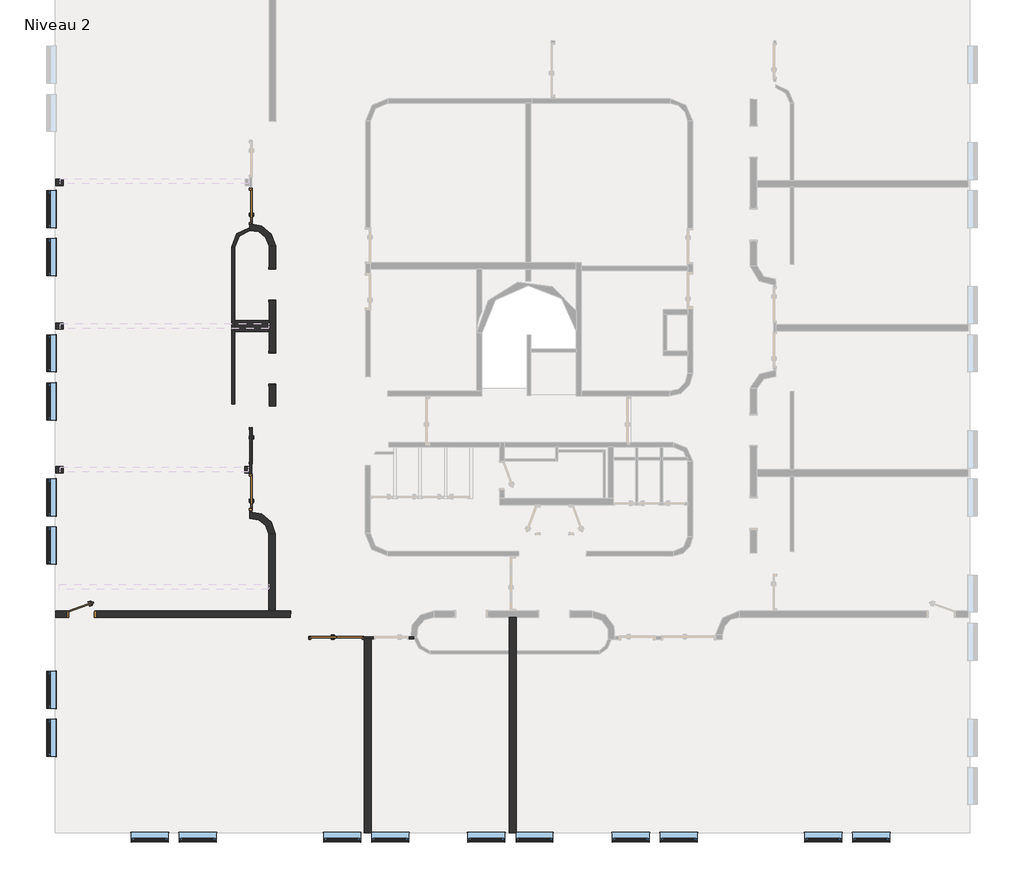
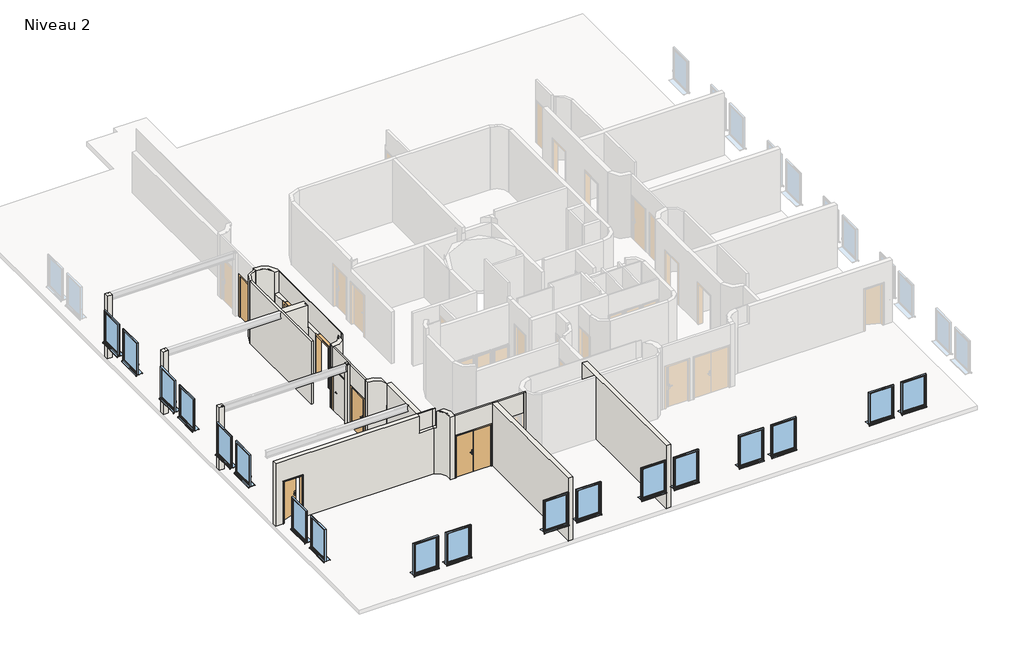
# One storey, part 1 of 5: 18 walls, 18 windows, 7 doors.
"""IFC4 building model written with IfcOpenShell, lengths in millimetres."""

from ifc_helpers import new_model, si_unit, point, frame, frame_2d, origin, place, context, project, spatial, polyline, circle_curve, trimmed, segment, composite_curve, outline, extrude, faceted_brep, transform, mapped, element, save
from ifc_brep_helpers import plane_surface, cylinder_surface, revolved_surface, advanced_brep
from components import door_0ca0b57b, door_1_10m_x_2_04m_5cb44dee, door_1_10m_x_2_04m_12239842, double_r_1_63m_x_2_04m_f0196d8f, ouverture_en_rectangle_ouverture100x200_67694711, window_115_x_155_cm_24c5beae

model = new_model("IFC4")

# Units and contexts
model_context = context("Model", 3, world=origin())
ifc_project = project(units=[si_unit("LENGTHUNIT", "METRE", prefix="MILLI")], contexts=[model_context])

# Site, building, storey
site = spatial("IfcSite", under=ifc_project)
building = spatial("IfcBuilding", under=site)
storey = spatial("IfcBuildingStorey", under=building, Name="Niveau 2", Elevation=7367.3082742)

# Doors
placement = place(None, origin())
door_shape = door_0ca0b57b(model_context)
element("IfcDoor", 1, ObjectType="@_Int. Simple : @_PP (0.83m x 2.04m)", at=placement, inside=storey, context=model_context, shape_type="MappedRepresentation", body=[
    mapped(door_shape, transform((-24826.4891731, -14129.1151398, 7367.3082742), x_axis=(-1.0, 0.0, 0.0), y_axis=(0.0, -1.0, 0.0), z_axis=(0.0, 0.0, 1.0))),
])
door_1_10m_x_2_04m_shape = door_1_10m_x_2_04m_5cb44dee(model_context)
element("IfcDoor", 2, ObjectType="Tierce  160 : 1.10m x 2.04m", at=placement, inside=storey, context=model_context, shape_type="MappedRepresentation", body=[
    mapped(door_1_10m_x_2_04m_shape, transform((-19521.5153149, -10332.0745776, 7367.3082742), x_axis=(3.2540088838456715e-10, -1.0, 0.0), y_axis=(1.0, 3.2540088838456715e-10, 0.0), z_axis=(0.0, 0.0, 1.0))),
])
element("IfcDoor", 3, ObjectType="Tierce  160 : 1.10m x 2.04m", at=placement, inside=storey, context=model_context, shape_type="MappedRepresentation", body=[
    mapped(door_1_10m_x_2_04m_shape, transform((-19521.5153148, -1410.74322, 7367.3082742), x_axis=(3.2540088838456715e-10, -1.0, 0.0), y_axis=(1.0, 3.2540088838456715e-10, 0.0), z_axis=(0.0, 0.0, 1.0))),
])
door_1_10m_x_2_04m_2_shape = door_1_10m_x_2_04m_12239842(model_context)
element("IfcDoor", 4, ObjectType="Tierce  160 : 1.10m x 2.04m", at=placement, inside=storey, context=model_context, shape_type="MappedRepresentation", body=[
    mapped(door_1_10m_x_2_04m_2_shape, transform((-19521.5153154, -8883.2595323, 7367.3082742), x_axis=(-3.2540088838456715e-10, 1.0, 0.0), y_axis=(-1.0, -3.2540088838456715e-10, 0.0), z_axis=(0.0, 0.0, 1.0))),
])
double_r_1_63m_x_2_04m_shape = double_r_1_63m_x_2_04m_f0196d8f(model_context)
element("IfcDoor", 5, ObjectType="Double (R) : 1.63m x 2.04m", at=placement, inside=storey, context=model_context, shape_type="MappedRepresentation", body=[
    mapped(double_r_1_63m_x_2_04m_shape, transform((-16848.9891744, -14870.5536882, 7367.3082742), x_axis=(-1.0, 0.0, 0.0), y_axis=(0.0, -1.0, 0.0), z_axis=(0.0, 0.0, 1.0))),
])
ouverture_en_rectangle_ouverture100x200_shape = ouverture_en_rectangle_ouverture100x200_67694711(model_context)
element("IfcDoor", 6, ObjectType="Ouverture en rectangle : Ouverture100x200", at=placement, inside=storey, context=model_context, shape_type="MappedRepresentation", body=[
    mapped(ouverture_en_rectangle_ouverture100x200_shape, transform((-18843.989171, -6470.3847165, 7367.3082742), x_axis=(0.0, -1.0, 0.0), y_axis=(1.0, 0.0, 0.0), z_axis=(0.0, 0.0, 1.0))),
])
element("IfcDoor", 7, ObjectType="Ouverture en rectangle : Ouverture100x200", at=placement, inside=storey, context=model_context, shape_type="MappedRepresentation", body=[
    mapped(ouverture_en_rectangle_ouverture100x200_shape, transform((-18843.989171, -3852.8185227, 7367.3082742), x_axis=(0.0, -1.0, 0.0), y_axis=(1.0, 0.0, 0.0), z_axis=(0.0, 0.0, 1.0))),
])

# Walls
element("IfcWall", 8, ObjectType="@_Générique - Int. 100 mm", at=placement, inside=storey, context=model_context, shape_type="SweptSolid", body=[
    extrude(outline(polyline([(-20116.9083953, -7573.5894208), (-20116.9083953, -2674.9773292), (-20016.9083953, -2676.6196733), (-20016.9083953, -7575.2317649), (-20116.9083953, -7573.5894208)])), frame((0.0, 0.0, 7367.3082742), z_axis=(0.0, 0.0, 1.0), x_axis=(1.0, 0.0, 0.0)), (0.0, 0.0, 1.0), 3056.0),
])
element("IfcWall", 9, ObjectType="@_Générique - Int. 100 mm", at=placement, inside=storey, context=model_context, shape_type="SweptSolid", body=[
    extrude(outline(composite_curve([segment(polyline([(-20016.9083953, -2676.6196733), (-20116.9083953, -2674.9773292)]), True, "CONTINUOUS"), segment(trimmed(circle_curve(frame_2d((-19487.2206146, -2694.8090938)), 630.0), [point((-20116.9083953, -2674.9773292))], [point((-19556.5153145, -2068.6316073))], False, "CARTESIAN"), True, "CONTINUOUS"), segment(polyline([(-19556.5153145, -2068.6316073), (-19556.5153145, -2169.3585779)]), True, "CONTINUOUS"), segment(trimmed(circle_curve(frame_2d((-19487.2206146, -2694.8090938)), 530.0), [point((-19556.5153145, -2169.3585779))], [point((-20016.9083953, -2676.6196733))], True, "CARTESIAN"), True, "CONTINUOUS")], self_intersect=False)), frame((0.0, 0.0, 7367.3082742), z_axis=(0.0, 0.0, 1.0), x_axis=(1.0, 0.0, 0.0)), (0.0, 0.0, 1.0), 3056.0),
])
element("IfcWall", 10, ObjectType="@_Générique - Int. 70 mm", at=placement, inside=storey, context=model_context, shape_type="AdvancedBrep", body=[
    advanced_brep(
    [(-14439.0437358, -14835.5536882, 10423.3082742), (-14439.0437358, -14835.5536882, 7367.3082742), (-14578.9891744, -14835.5536882, 7367.3082742), (-14578.9891744, -14835.5536882, 9442.3082742), (-15698.9891744, -14835.5536882, 9442.3082742), (-15698.9891744, -14835.5536882, 7367.3082742), (-15998.9891744, -14835.5536882, 7367.3082742), (-15998.9891744, -14835.5536882, 9442.3082742), (-17698.9891744, -14835.5536882, 9442.3082742), (-17698.9891744, -14835.5536882, 7367.3082742), (-17702.5695883, -14835.5536882, 7367.3082742), (-17702.5695883, -14835.5536882, 10423.3082742), (-14439.0437358, -14905.5536882, 7367.3082742), (-14439.0437358, -14905.5536882, 10423.3082742), (-17715.1466322, -14905.5536882, 10423.3082742), (-17715.1466322, -14905.5536882, 7367.3082742), (-17698.9891744, -14905.5536882, 7367.3082742), (-17698.9891744, -14905.5536882, 9442.3082742), (-15998.9891744, -14905.5536882, 9442.3082742), (-15998.9891744, -14905.5536882, 7367.3082742), (-15698.9891744, -14905.5536882, 7367.3082742), (-15698.9891744, -14905.5536882, 9442.3082742), (-14578.9891744, -14905.5536882, 9442.3082742), (-14578.9891744, -14905.5536882, 7367.3082742)],
    [
        (0, 1),
        (1, 2),
        (2, 3),
        (3, 4),
        (4, 5),
        (5, 6),
        (6, 7),
        (7, 8),
        (8, 9),
        (9, 10),
        (10, 11),
        (11, 0),
        (12, 13),
        (13, 14),
        (14, 15),
        (15, 16),
        (16, 17),
        (17, 18),
        (18, 19),
        (19, 20),
        (20, 21),
        (21, 22),
        (22, 23),
        (23, 12),
        (1, 12),
        (23, 2),
        (15, 10, circle_curve(frame((-18426.4999994, -14741.6134946, 7367.3082742), z_axis=(0.0, 0.0, 1.0), x_axis=(1.0, 0.0, 0.0)), 730.0)),
        (9, 16),
        (19, 6),
        (5, 20),
        (0, 13),
        (11, 14, circle_curve(frame((-18426.4999994, -14741.6134946, 10423.3082742), z_axis=(0.0, 0.0, -1.0), x_axis=(1.0, 0.0, 0.0)), 730.0)),
        (8, 17),
        (7, 18),
        (3, 22),
        (21, 4),
    ],
    [
        plane_surface(frame((-12428.2739687, -14835.5536882, 7367.3082742), z_axis=(0.0, 1.0, 0.0), x_axis=(-1.0, 0.0, 0.0))),
        plane_surface(frame((-12428.2739687, -14905.5536882, 7367.3082742), z_axis=(0.0, -1.0, 0.0), x_axis=(1.0, 0.0, 0.0))),
        plane_surface(frame((-14439.0437358, -14835.5536882, 7367.3082742), z_axis=(0.0, 0.0, -1.0), x_axis=(0.0, -1.0, 0.0))),
        plane_surface(frame((-14439.0437358, -14835.5536882, 10423.3082742), z_axis=(1.0, 0.0, 0.0), x_axis=(0.0, -1.0, 0.0))),
        plane_surface(frame((-25603.9891731, 10580.8848592, 10423.3082742), z_axis=(0.0, 0.0, 1.0), x_axis=(0.0, 1.0, 0.0))),
        revolved_surface(polyline([(-17696.4999994, -14741.6134946, 10423.3082742), (-17696.4999994, -14741.6134946, 7367.3082742)]), (-18426.4999994, -14741.6134946, 7367.3082742), (0.0, 0.0, 1.0)),
        plane_surface(frame((-17698.9891744, -13311.5536882, 7367.3082742), z_axis=(1.0, 0.0, 0.0), x_axis=(0.0, -1.0, 0.0))),
        plane_surface(frame((-17698.9891744, -13311.5536882, 9442.3082742), z_axis=(0.0, 0.0, -1.0), x_axis=(0.0, -1.0, 0.0))),
        plane_surface(frame((-15998.9891744, -13311.5536882, 9442.3082742), z_axis=(-1.0, 0.0, 0.0), x_axis=(0.0, -1.0, 0.0))),
        plane_surface(frame((-14578.9891744, -16359.5536882, 9442.3082742), z_axis=(0.0, 0.0, -1.0), x_axis=(0.0, 1.0, 0.0))),
        plane_surface(frame((-15698.9891744, -16359.5536882, 9442.3082742), z_axis=(1.0, 0.0, 0.0), x_axis=(0.0, 1.0, 0.0))),
        plane_surface(frame((-14578.9891744, -16359.5536882, 7367.3082742), z_axis=(-1.0, 0.0, 0.0), x_axis=(0.0, 1.0, 0.0))),
    ],
    [
        (0, [[1, 2, 3, 4, 5, 6, 7, 8, 9, 10, 11, 12]]),
        (1, [[13, 14, 15, 16, 17, 18, 19, 20, 21, 22, 23, 24]]),
        (2, [[25, -24, 26, -2]]),
        (2, [[27, -10, 28, -16]]),
        (2, [[29, -6, 30, -20]]),
        (3, [[-1, 31, -13, -25]]),
        (4, [[-12, 32, -14, -31]]),
        (5, [[-11, -27, -15, -32]]),
        (6, [[33, -17, -28, -9]]),
        (7, [[-33, -8, 34, -18]]),
        (8, [[-34, -7, -29, -19]]),
        (9, [[35, -22, 36, -4]]),
        (10, [[-36, -21, -30, -5]]),
        (11, [[-35, -3, -26, -23]]),
    ],
),
])
element("IfcWall", 11, ObjectType="@_Générique - Int. 70 mm", at=placement, inside=storey, context=model_context, shape_type="AdvancedBrep", body=[
    advanced_brep(
    [(-19486.5153156, -8323.281214, 10423.3082742), (-19486.5153147, -10944.9558374, 10423.3082742), (-19486.5153147, -10944.9558374, 7367.3082742), (-19486.5153148, -10892.0745776, 7367.3082742), (-19486.5153148, -10892.0745776, 9442.3082742), (-19486.5153151, -9772.0745776, 9442.3082742), (-19486.5153151, -9772.0745776, 7367.3082742), (-19486.5153152, -9443.2595323, 7367.3082742), (-19486.5153156, -8323.281214, 7367.3082742), (-19486.5153156, -8323.281214, 9442.3082742), (-19556.5153147, -10948.2518126, 10423.3082742), (-19556.5153156, -8318.5380058, 10423.3082742), (-19556.5153156, -8318.5380058, 7367.3082742), (-19556.5153156, -8323.2595323, 7367.3082742), (-19556.5153152, -9443.2595323, 7367.3082742), (-19556.5153151, -9772.0745776, 7367.3082742), (-19556.5153151, -9772.0745776, 9442.3082742), (-19556.5153148, -10892.0745776, 9442.3082742), (-19556.5153148, -10892.0745776, 7367.3082742), (-19556.5153147, -10948.2518126, 7367.3082742), (-19487.582493, -8323.2595323, 7367.3082742)],
    [
        (0, 1),
        (1, 2),
        (2, 3),
        (3, 4),
        (4, 5),
        (5, 6),
        (6, 7),
        (7, 8),
        (8, 9),
        (9, 0),
        (10, 11),
        (11, 12),
        (12, 13),
        (13, 14),
        (14, 15),
        (15, 16),
        (16, 17),
        (17, 18),
        (18, 19),
        (19, 10),
        (2, 19, circle_curve(frame((-19487.2206146, -11674.9554967, 7367.3082742), z_axis=(0.0, 0.0, 1.0), x_axis=(1.0, -3.743863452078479e-10, 0.0)), 730.0)),
        (18, 3),
        (6, 15),
        (12, 20, circle_curve(frame((-19472.2206146, -7593.4211853, 7367.3082742), z_axis=(0.0, 0.0, 1.0), x_axis=(1.0, 3.743747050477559e-10, 0.0)), 730.0)),
        (20, 8, circle_curve(frame((-19472.2206146, -7593.4211853, 7367.3082742), z_axis=(0.0, 0.0, 1.0), x_axis=(1.0, 3.743747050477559e-10, 0.0)), 730.0)),
        (0, 11, circle_curve(frame((-19472.2206146, -7593.4211853, 10423.3082742), z_axis=(0.0, 0.0, -1.0), x_axis=(1.0, 3.743747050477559e-10, 0.0)), 730.0)),
        (10, 1, circle_curve(frame((-19487.2206146, -11674.9554967, 10423.3082742), z_axis=(0.0, 0.0, -1.0), x_axis=(1.0, -3.743863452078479e-10, 0.0)), 730.0)),
        (17, 4),
        (16, 5),
    ],
    [
        plane_surface(frame((-19486.5153137, -14151.2761968, 7367.3082742), z_axis=(1.0, 3.2540088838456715e-10, 0.0), x_axis=(-3.2540088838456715e-10, 1.0, 0.0))),
        plane_surface(frame((-19556.5153137, -14151.2761968, 7367.3082742), z_axis=(-1.0, -3.2540088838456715e-10, 0.0), x_axis=(3.2540088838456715e-10, -1.0, 0.0))),
        plane_surface(frame((-19486.5153147, -11045.8896229, 7367.3082742), z_axis=(0.0, 0.0, -1.0), x_axis=(-1.0, -3.253861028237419e-10, 0.0))),
        plane_surface(frame((-25603.9891731, 10580.8848592, 10423.3082742), z_axis=(0.0, 0.0, 1.0), x_axis=(0.0, 1.0, 0.0))),
        revolved_surface(polyline([(-18742.2206146, -7593.421185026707, 10423.3082742), (-18742.2206146, -7593.421185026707, 7367.3082742)]), (-19472.2206146, -7593.4211853, 7367.3082742), (0.0, 0.0, 1.0)),
        revolved_surface(polyline([(-18757.2206146, -11674.955496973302, 10423.3082742), (-18757.2206146, -11674.955496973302, 7367.3082742)]), (-19487.2206146, -11674.9554967, 7367.3082742), (0.0, 0.0, 1.0)),
        plane_surface(frame((-21010.5153148, -10892.0745781, 7367.3082742), z_axis=(-3.2540086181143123e-10, 1.0, 0.0), x_axis=(1.0, 3.2540086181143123e-10, 0.0))),
        plane_surface(frame((-21010.5153148, -10892.0745781, 9442.3082742), z_axis=(0.0, 0.0, -1.0), x_axis=(1.0, 3.2540086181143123e-10, 0.0))),
        plane_surface(frame((-21010.5153151, -9772.0745781, 9442.3082742), z_axis=(3.2540086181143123e-10, -1.0, 0.0), x_axis=(1.0, 3.2540086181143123e-10, 0.0))),
    ],
    [
        (0, [[1, 2, 3, 4, 5, 6, 7, 8, 9, 10]]),
        (1, [[11, 12, 13, 14, 15, 16, 17, 18, 19, 20]]),
        (2, [[21, -19, 22, -3]]),
        (2, [[-8, -7, 23, -15, -14, -13, 24, 25]]),
        (3, [[-1, 26, -11, 27]]),
        (4, [[-12, -26, -10, -9, -25, -24]]),
        (5, [[-2, -27, -20, -21]]),
        (6, [[28, -4, -22, -18]]),
        (7, [[-28, -17, 29, -5]]),
        (8, [[-29, -16, -23, -6]]),
    ],
),
])
element("IfcWall", 12, ObjectType="@_Générique - Int. 350 mm", at=placement, inside=storey, context=model_context, shape_type="SweptSolid", body=[
    extrude(outline(polyline([(7367.3082742, -20016.9083953), (7367.3082742, -18943.989171), (9367.3082742, -18943.989171), (9367.3082742, -18958.989172), (10423.3082742, -18958.989172), (10423.3082742, -20016.9083953), (7367.3082742, -20016.9083953)])), frame((0.0, -5320.5835083, 0.0), z_axis=(0.0, 1.0, 0.0), x_axis=(0.0, 0.0, 1.0)), (0.0, 0.0, 1.0), 350.0),
])
element("IfcWall", 13, ObjectType="Ext. Voile BA 200", at=placement, inside=storey, context=model_context, shape_type="Brep", body=[
    faceted_brep([(-25593.9891731, -14229.1151398, 10423.3082742), (-25593.9891731, -14229.1151398, 7367.3082742), (-25241.4891731, -14229.1151398, 7367.3082742), (-25241.4891731, -14229.1151398, 9442.3082742), (-24341.4891731, -14229.1151398, 9442.3082742), (-24341.4891731, -14229.1151398, 7367.3082742), (-18291.4243305, -14229.1151398, 7367.3082742), (-18291.4243305, -14229.1151398, 9592.3082742), (-18958.989172, -14229.1151398, 9592.3082742), (-18958.989172, -14229.1151398, 10423.3082742), (-25593.9891731, -14029.1151398, 7367.3082742), (-25593.9891731, -14029.1151398, 10423.3082742), (-18958.989172, -14029.1151398, 10423.3082742), (-18758.989172, -14029.1151398, 10423.3082742), (-18267.6098033, -14029.1151398, 10423.3082742), (-18267.6098033, -14029.1151398, 7367.3082742), (-18758.989172, -14029.1151398, 7367.3082742), (-18958.989172, -14029.1151398, 7367.3082742), (-24341.4891731, -14029.1151398, 7367.3082742), (-24341.4891731, -14029.1151398, 9442.3082742), (-25241.4891731, -14029.1151398, 9442.3082742), (-25241.4891731, -14029.1151398, 7367.3082742), (-18958.989172, -14069.1151394, 10423.3082742), (-18272.3727087, -14069.1151394, 10423.3082742), (-18958.989172, -14069.1151394, 9592.3082742), (-18272.3727087, -14069.1151394, 9592.3082742)], [[[0, 1, 2, 3, 4, 5, 6, 7, 8, 9]], [[10, 11, 12, 13, 14, 15, 16, 17, 18, 19, 20, 21]], [[1, 10, 21, 2]], [[15, 6, 5, 18, 17, 16]], [[1, 0, 11, 10]], [[14, 13, 12, 11, 0, 9, 22, 23]], [[22, 24, 25, 23]], [[24, 22, 9, 8]], [[25, 24, 8, 7]], [[6, 15, 14, 23, 25, 7]], [[3, 2, 21, 20]], [[4, 3, 20, 19]], [[5, 4, 19, 18]]]),
])
element("IfcWall", 14, ObjectType="Ext. Voile BA 200", at=placement, inside=storey, context=model_context, shape_type="SweptSolid", body=[
    extrude(outline(polyline([(-18958.989172, -14029.1151398), (-18958.989172, -11631.6941624), (-18758.989172, -11624.1719757), (-18758.989172, -14029.1151398), (-18958.989172, -14029.1151398)])), frame((0.0, 0.0, 7367.3082742), z_axis=(0.0, 0.0, 1.0), x_axis=(1.0, 0.0, 0.0)), (0.0, 0.0, 1.0), 3056.0),
])
element("IfcWall", 15, ObjectType="Ext. Voile BA 200", at=placement, inside=storey, context=model_context, shape_type="AdvancedBrep", body=[
    advanced_brep(
    [(-19556.5153157, -8116.6748555, 7367.3082742), (-18943.989171, -7636.6825067, 7367.3082742), (-18743.989171, -7644.2046911, 7367.3082742), (-19486.5153156, -8323.281214, 7367.3082742), (-19487.582493, -8323.2595323, 7367.3082742), (-19556.5153156, -8318.5380058, 7367.3082742), (-19556.5153156, -8219.5986717, 7367.3082742), (-19507.8893067, -8223.0820505, 7367.3082742), (-19504.6085619, -8123.1358814, 7367.3082742), (-19556.5153157, -8118.871701, 7367.3082742), (-19556.5153157, -8116.6748555, 10423.3082742), (-18958.989172, -7725.6841292, 10423.3082742), (-18958.989172, -7725.6841292, 9367.3082742), (-18943.989171, -7636.6825067, 9367.3082742), (-19556.5153156, -8318.5380058, 10423.3082742), (-18743.989171, -7644.2046911, 10423.3082742), (-18758.989172, -7748.9875997, 10423.3082742), (-18758.989172, -7748.9875997, 9367.3082742), (-18958.989172, -8112.5488058, 9367.3082742), (-18958.989172, -8112.5488058, 10423.3082742), (-19556.5153157, -8118.871701, 10423.3082742), (-19556.5153156, -8219.5986717, 10423.3082742), (-19504.6085619, -8123.1358814, 10423.3082742), (-19507.8893067, -8223.0820505, 10423.3082742), (-18758.989172, -7643.6405272, 10423.3082742), (-18758.989172, -7643.6405272, 9367.3082742)],
    [
        (0, 1, circle_curve(frame((-19472.2206146, -7593.4211853, 7367.3082742), z_axis=(0.0, 0.0, 1.0), x_axis=(1.0, 3.743747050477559e-10, 0.0)), 530.0)),
        (1, 2),
        (2, 3, circle_curve(frame((-19472.2206146, -7593.4211853, 7367.3082742), z_axis=(0.0, 0.0, -1.0), x_axis=(1.0, 3.743747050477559e-10, 0.0)), 730.0)),
        (3, 4, circle_curve(frame((-19472.2206146, -7593.4211853, 7367.3082742), z_axis=(0.0, 0.0, -1.0), x_axis=(1.0, 3.743747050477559e-10, 0.0)), 730.0)),
        (4, 5, circle_curve(frame((-19472.2206146, -7593.4211853, 7367.3082742), z_axis=(0.0, 0.0, -1.0), x_axis=(1.0, 3.743747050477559e-10, 0.0)), 730.0)),
        (5, 6),
        (6, 7, circle_curve(frame((-19487.2206146, -7593.4211853, 7367.3082742), z_axis=(0.0, 0.0, 1.0), x_axis=(1.0, -3.743775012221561e-10, 0.0)), 630.0)),
        (7, 8),
        (8, 9, circle_curve(frame((-19487.2206146, -7593.4211853, 7367.3082742), z_axis=(0.0, 0.0, -1.0), x_axis=(1.0, -3.743775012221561e-10, 0.0)), 530.0)),
        (9, 0),
        (0, 10),
        (10, 11, circle_curve(frame((-19472.2206146, -7593.4211853, 10423.3082742), z_axis=(0.0, 0.0, 1.0), x_axis=(1.0, 3.743747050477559e-10, 0.0)), 530.0)),
        (11, 12),
        (12, 13, circle_curve(frame((-19472.2206146, -7593.4211853, 9367.3082742), z_axis=(0.0, 0.0, 1.0), x_axis=(1.0, 3.743747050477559e-10, 0.0)), 530.0)),
        (13, 1),
        (14, 5),
        (2, 15),
        (15, 16, circle_curve(frame((-19472.2206146, -7593.4211853, 10423.3082742), z_axis=(0.0, 0.0, -1.0), x_axis=(1.0, 3.743747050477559e-10, 0.0)), 730.0)),
        (16, 17),
        (17, 18, circle_curve(frame((-19472.2206146, -7593.4211853, 9367.3082742), z_axis=(0.0, 0.0, -1.0), x_axis=(1.0, 3.743747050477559e-10, 0.0)), 730.0)),
        (18, 19),
        (19, 14, circle_curve(frame((-19472.2206146, -7593.4211853, 10423.3082742), z_axis=(0.0, 0.0, -1.0), x_axis=(1.0, 3.743747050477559e-10, 0.0)), 730.0)),
        (9, 20),
        (20, 10),
        (14, 21),
        (21, 6),
        (20, 22, circle_curve(frame((-19487.2206146, -7593.4211853, 10423.3082742), z_axis=(0.0, 0.0, 1.0), x_axis=(1.0, -3.743775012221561e-10, 0.0)), 530.0)),
        (22, 23),
        (23, 21, circle_curve(frame((-19487.2206146, -7593.4211853, 10423.3082742), z_axis=(0.0, 0.0, -1.0), x_axis=(1.0, -3.743775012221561e-10, 0.0)), 630.0)),
        (19, 11),
        (15, 24),
        (24, 16),
        (8, 22),
        (18, 12),
        (17, 25),
        (25, 13),
        (7, 23),
        (24, 25),
    ],
    [
        plane_surface(frame((-18942.2206146, -7593.4211851, 7367.3082742), z_axis=(0.0, 0.0, -1.0), x_axis=(-3.743747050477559e-10, 1.0, 0.0))),
        revolved_surface(polyline([(-18942.2206146, -7593.421185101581, 7367.3082742), (-18942.2206146, -7593.421185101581, 10423.3082742)]), (-19472.2206146, -7593.4211853, 7367.3082742), (0.0, 0.0, -1.0)),
        cylinder_surface(frame((-19472.2206146, -7593.4211853, 7367.3082742), z_axis=(0.0, 0.0, 1.0), x_axis=(1.0, 3.743747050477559e-10, 0.0)), 730.0),
        plane_surface(frame((-19556.5153137, -14151.2761968, 7367.3082742), z_axis=(-1.0, -3.2540088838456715e-10, 0.0), x_axis=(3.2540088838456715e-10, -1.0, 0.0))),
        plane_surface(frame((-25603.9891731, 10580.8848592, 10423.3082742), z_axis=(0.0, 0.0, 1.0), x_axis=(0.0, 1.0, 0.0))),
        cylinder_surface(frame((-19487.2206146, -7593.4211853, 7367.3082742), z_axis=(0.0, 0.0, -1.0), x_axis=(1.0, -3.743775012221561e-10, 0.0)), 530.0),
        plane_surface(frame((-18958.989172, -11917.9123748, 9367.3082742), z_axis=(1.0, 0.0, 0.0), x_axis=(0.0, -1.0, 0.0))),
        plane_surface(frame((-18758.989172, -14169.1151394, 9367.3082742), z_axis=(0.0, 0.0, 1.0), x_axis=(-1.0, 0.0, 0.0))),
        plane_surface(frame((-19507.8893067, -8223.0820505, 10423.3082742), z_axis=(-0.9994616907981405, 0.03280744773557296, 0.0), x_axis=(0.0, 0.0, -1.0))),
        revolved_surface(polyline([(-18857.2206146, -7593.421185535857, 10423.3082742), (-18857.2206146, -7593.421185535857, 7367.3082742)]), (-19487.2206146, -7593.4211853, 7367.3082742), (0.0, 0.0, 1.0)),
        plane_surface(frame((-18758.989172, -11917.9123748, 9367.3082742), z_axis=(-1.0, 0.0, 0.0), x_axis=(0.0, 1.0, 0.0))),
        plane_surface(frame((-18743.989171, -7644.2046911, 7367.3082742), z_axis=(0.03758434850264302, 0.9992934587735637, 0.0), x_axis=(-0.9992934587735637, 0.03758434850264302, 0.0))),
    ],
    [
        (0, [[1, 2, 3, 4, 5, 6, 7, 8, 9, 10]]),
        (1, [[-1, 11, 12, 13, 14, 15]]),
        (2, [[16, -5, -4, -3, 17, 18, 19, 20, 21, 22]]),
        (3, [[-11, -10, 23, 24]]),
        (3, [[-16, 25, 26, -6]]),
        (4, [[-24, 27, 28, 29, -25, -22, 30, -12]]),
        (4, [[-18, 31, 32]]),
        (5, [[-23, -9, 33, -27]]),
        (6, [[34, -13, -30, -21]]),
        (7, [[-34, -20, 35, 36, -14]]),
        (8, [[-33, -8, 37, -28]]),
        (9, [[-37, -7, -26, -29]]),
        (10, [[-35, -19, -32, 38]]),
        (11, [[-17, -2, -15, -36, -38, -31]]),
    ],
),
])
element("IfcWall", 16, ObjectType="Ext. Voile BA 200", at=placement, inside=storey, context=model_context, shape_type="AdvancedBrep", body=[
    advanced_brep(
    [(-18943.989171, -2651.5477724, 7367.3082742), (-19556.5153145, -2171.5554234, 7367.3082742), (-19556.5153145, -2169.3585779, 7367.3082742), (-19556.5153145, -2068.6316073, 7367.3082742), (-19556.5153146, -1970.74322, 7367.3082742), (-19486.5153146, -1970.74322, 7367.3082742), (-19486.5153146, -1964.949065, 7367.3082742), (-18743.989171, -2644.025588, 7367.3082742), (-19556.5153146, -1969.6922731, 10423.3082742), (-18958.989172, -2175.6814733, 10423.3082742), (-18758.989172, -2539.2426794, 10423.3082742), (-18743.989171, -2644.025588, 10423.3082742), (-19486.5153146, -1964.949065, 9442.3082742), (-19556.5153146, -1969.6922731, 9442.3082742), (-18943.989171, -2651.5477724, 9367.3082742), (-18943.989171, -2651.5477724, 10423.3082742), (-18958.989172, -2562.5461499, 10423.3082742), (-19556.5153145, -2171.5554234, 10423.3082742), (-19556.5153145, -2169.3585779, 10423.3082742), (-19556.5153145, -2068.6316073, 10423.3082742), (-19556.5153146, -1970.74322, 9442.3082742), (-18758.989172, -2644.5897518, 10423.3082742), (-19486.5153146, -1970.74322, 9442.3082742)],
    [
        (0, 1, circle_curve(frame((-19472.2206146, -2694.8090938, 7367.3082742), z_axis=(0.0, 0.0, 1.0), x_axis=(1.0, -3.7438053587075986e-10, 0.0)), 530.0)),
        (1, 2),
        (2, 3),
        (3, 4),
        (4, 5),
        (5, 6),
        (6, 7, circle_curve(frame((-19472.2206146, -2694.8090938, 7367.3082742), z_axis=(0.0, 0.0, -1.0), x_axis=(1.0, -3.7438053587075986e-10, 0.0)), 730.0)),
        (7, 0),
        (8, 9, circle_curve(frame((-19472.2206146, -2694.8090938, 10423.3082742), z_axis=(0.0, 0.0, -1.0), x_axis=(1.0, -3.7438053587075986e-10, 0.0)), 730.0)),
        (9, 10, circle_curve(frame((-19472.2206146, -2694.8090938, 10423.3082742), z_axis=(0.0, 0.0, -1.0), x_axis=(1.0, -3.7438053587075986e-10, 0.0)), 730.0)),
        (10, 11, circle_curve(frame((-19472.2206146, -2694.8090938, 10423.3082742), z_axis=(0.0, 0.0, -1.0), x_axis=(1.0, -3.7438053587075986e-10, 0.0)), 730.0)),
        (11, 7),
        (6, 12),
        (12, 13, circle_curve(frame((-19472.2206146, -2694.8090938, 9442.3082742), z_axis=(0.0, 0.0, 1.0), x_axis=(1.0, -3.7438053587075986e-10, 0.0)), 730.0)),
        (13, 8),
        (0, 14),
        (14, 15),
        (15, 16, circle_curve(frame((-19472.2206146, -2694.8090938, 10423.3082742), z_axis=(0.0, 0.0, 1.0), x_axis=(1.0, -3.7438053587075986e-10, 0.0)), 530.0)),
        (16, 17, circle_curve(frame((-19472.2206146, -2694.8090938, 10423.3082742), z_axis=(0.0, 0.0, 1.0), x_axis=(1.0, -3.7438053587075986e-10, 0.0)), 530.0)),
        (17, 1),
        (17, 18),
        (18, 19),
        (19, 8),
        (13, 20),
        (20, 4),
        (15, 21),
        (21, 11),
        (5, 22),
        (22, 12),
        (22, 20),
    ],
    [
        plane_surface(frame((-18742.2206146, -2694.809094, 7367.3082742), z_axis=(0.0, 0.0, -1.0), x_axis=(-3.7438053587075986e-10, -1.0, 0.0))),
        cylinder_surface(frame((-19472.2206146, -2694.8090938, 7367.3082742), z_axis=(0.0, 0.0, 1.0), x_axis=(1.0, -3.7438053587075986e-10, 0.0)), 730.0),
        revolved_surface(polyline([(-18942.2206146, -2694.8090939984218, 7367.3082742), (-18942.2206146, -2694.8090939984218, 10423.3082742)]), (-19472.2206146, -2694.8090938, 7367.3082742), (0.0, 0.0, -1.0)),
        plane_surface(frame((-19556.5153137, -4651.2761968, 7367.3082742), z_axis=(-1.0, -3.2540088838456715e-10, 0.0), x_axis=(3.2540088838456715e-10, -1.0, 0.0))),
        plane_surface(frame((-25603.9891731, 10580.8848592, 10423.3082742), z_axis=(0.0, 0.0, 1.0), x_axis=(0.0, 1.0, 0.0))),
        plane_surface(frame((-19486.5153146, -1970.74322, 7367.3082742), z_axis=(-1.0, -3.2540088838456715e-10, 0.0), x_axis=(0.0, 0.0, -1.0))),
        plane_surface(frame((-19556.5153146, -1970.74322, 9442.3082742), z_axis=(0.0, 0.0, -1.0), x_axis=(1.0, 3.2540157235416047e-10, 0.0))),
        plane_surface(frame((-19556.5153146, -1970.74322, 7367.3082742), z_axis=(-3.2540157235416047e-10, 1.0, 0.0), x_axis=(1.0, 3.2540157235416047e-10, 0.0))),
        plane_surface(frame((-18943.989171, -2651.5477724, 7367.3082742), z_axis=(0.037584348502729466, -0.9992934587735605, 0.0), x_axis=(0.9992934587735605, 0.037584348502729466, 0.0))),
    ],
    [
        (0, [[1, 2, 3, 4, 5, 6, 7, 8]]),
        (1, [[9, 10, 11, 12, -7, 13, 14, 15]]),
        (2, [[-1, 16, 17, 18, 19, 20]]),
        (3, [[-20, 21, 22, 23, -15, 24, 25, -4, -3, -2]]),
        (4, [[-11, -10, -9, -23, -22, -21, -19, -18, 26, 27]]),
        (5, [[28, 29, -13, -6]]),
        (6, [[30, -24, -14, -29]]),
        (7, [[-28, -5, -25, -30]]),
        (8, [[-17, -16, -8, -12, -27, -26]]),
    ],
),
])
element("IfcWall", 17, ObjectType="Ext. Voile BA 200", at=placement, inside=storey, context=model_context, shape_type="Brep", body=[
    faceted_brep([(-18943.989171, -2651.5477724, 7367.3082742), (-18943.989171, -3352.8185227, 7367.3082742), (-18943.989171, -3352.8185227, 9367.3082742), (-18943.989171, -2651.5477724, 9367.3082742), (-18943.989171, -4352.8185227, 9367.3082742), (-18943.989171, -4352.8185227, 7367.3082742), (-18943.989171, -4970.5835083, 7367.3082742), (-18943.989171, -5320.5835083, 7367.3082742), (-18943.989171, -5970.3847165, 7367.3082742), (-18943.989171, -5970.3847165, 9367.3082742), (-18943.989171, -5320.5835083, 9367.3082742), (-18943.989171, -4970.5835083, 9367.3082742), (-18943.989171, -6970.3847165, 7367.3082742), (-18943.989171, -7636.6825067, 7367.3082742), (-18943.989171, -7636.6825067, 9367.3082742), (-18943.989171, -6970.3847165, 9367.3082742), (-18743.989171, -2644.025588, 10423.3082742), (-18743.989171, -7644.2046911, 10423.3082742), (-18743.989171, -7644.2046911, 7367.3082742), (-18743.989171, -6970.3847165, 7367.3082742), (-18743.989171, -6970.3847165, 9367.3082742), (-18743.989171, -5970.3847165, 9367.3082742), (-18743.989171, -5970.3847165, 7367.3082742), (-18743.989171, -4352.8185227, 7367.3082742), (-18743.989171, -4352.8185227, 9367.3082742), (-18743.989171, -3352.8185227, 9367.3082742), (-18743.989171, -3352.8185227, 7367.3082742), (-18743.989171, -2644.025588, 7367.3082742), (-18758.989172, -2644.5897518, 10423.3082742), (-18758.989172, -7643.6405272, 10423.3082742), (-18758.989172, -4352.8185227, 9367.3082742), (-18758.989172, -5970.3847165, 9367.3082742), (-18758.989172, -6970.3847165, 9367.3082742), (-18758.989172, -7643.6405272, 9367.3082742), (-18758.989172, -2644.5897518, 9367.3082742), (-18758.989172, -3352.8185227, 9367.3082742)], [[[0, 1, 2, 3]], [[4, 5, 6, 7, 8, 9, 10, 11]], [[12, 13, 14, 15]], [[16, 17, 18, 19, 20, 21, 22, 23, 24, 25, 26, 27]], [[1, 0, 27, 26]], [[5, 23, 22, 8, 7, 6]], [[13, 12, 19, 18]], [[17, 16, 28, 29]], [[30, 31, 32, 33, 29, 28, 34, 35]], [[5, 4, 30, 24, 23]], [[25, 24, 30, 35]], [[2, 1, 26, 25, 35]], [[12, 15, 32, 20, 19]], [[21, 20, 32, 31]], [[9, 8, 22, 21, 31]], [[16, 27, 0, 3, 34, 28]], [[31, 30, 4, 11, 10, 9]], [[33, 32, 15, 14]], [[35, 34, 3, 2]], [[13, 18, 17, 29, 33, 14]]]),
])
element("IfcWall", 18, ObjectType="Ext. Voile BA 200", at=placement, inside=storey, context=model_context, shape_type="AdvancedBrep", body=[
    advanced_brep(
    [(-19556.5153147, -10948.2518126, 7367.3082742), (-18758.989172, -11624.1719757, 7367.3082742), (-18958.989172, -11631.6941624, 7367.3082742), (-19556.5153147, -11149.5049809, 7367.3082742), (-19556.5153147, -10948.2518126, 10423.3082742), (-18958.989172, -11171.0988276, 10423.3082742), (-18958.989172, -11171.0988276, 9367.3082742), (-18758.989172, -11624.1719757, 9367.3082742), (-18958.989172, -11631.6941624, 9367.3082742), (-18958.989172, -11631.6941624, 10423.3082742), (-19556.5153147, -11149.5049809, 10423.3082742)],
    [
        (0, 1, circle_curve(frame((-19487.2206146, -11674.9554967, 7367.3082742), z_axis=(0.0, 0.0, -1.0), x_axis=(1.0, -3.743863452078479e-10, 0.0)), 730.0)),
        (1, 2),
        (2, 3, circle_curve(frame((-19487.2206146, -11674.9554967, 7367.3082742), z_axis=(0.0, 0.0, 1.0), x_axis=(1.0, -3.743863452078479e-10, 0.0)), 530.0)),
        (3, 0),
        (0, 4),
        (4, 5, circle_curve(frame((-19487.2206146, -11674.9554967, 10423.3082742), z_axis=(0.0, 0.0, -1.0), x_axis=(1.0, -3.743863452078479e-10, 0.0)), 730.0)),
        (5, 6),
        (6, 7, circle_curve(frame((-19487.2206146, -11674.9554967, 9367.3082742), z_axis=(0.0, 0.0, -1.0), x_axis=(1.0, -3.743863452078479e-10, 0.0)), 730.0)),
        (7, 1),
        (2, 8),
        (8, 9),
        (9, 10, circle_curve(frame((-19487.2206146, -11674.9554967, 10423.3082742), z_axis=(0.0, 0.0, 1.0), x_axis=(1.0, -3.743863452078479e-10, 0.0)), 530.0)),
        (10, 3),
        (7, 8),
        (10, 4),
        (9, 5),
        (8, 6),
    ],
    [
        plane_surface(frame((-18757.2206146, -11674.955497, 7367.3082742), z_axis=(0.0, 0.0, -1.0), x_axis=(-3.743863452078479e-10, -1.0, 0.0))),
        cylinder_surface(frame((-19487.2206146, -11674.9554967, 7367.3082742), z_axis=(0.0, 0.0, 1.0), x_axis=(1.0, -3.743863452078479e-10, 0.0)), 730.0),
        revolved_surface(polyline([(-18957.2206146, -11674.955496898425, 7367.3082742), (-18957.2206146, -11674.955496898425, 10423.3082742)]), (-19487.2206146, -11674.9554967, 7367.3082742), (0.0, 0.0, -1.0)),
        plane_surface(frame((-18958.989172, -11631.6941624, 7367.3082742), z_axis=(0.037584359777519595, -0.9992934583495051, 0.0), x_axis=(0.9992934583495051, 0.037584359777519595, 0.0))),
        plane_surface(frame((-19556.5153137, -14151.2761968, 7367.3082742), z_axis=(-1.0, -3.2540088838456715e-10, 0.0), x_axis=(3.2540088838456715e-10, -1.0, 0.0))),
        plane_surface(frame((-25603.9891731, 10580.8848592, 10423.3082742), z_axis=(0.0, 0.0, 1.0), x_axis=(0.0, 1.0, 0.0))),
        plane_surface(frame((-18958.989172, -11917.9123748, 9367.3082742), z_axis=(1.0, 0.0, 0.0), x_axis=(0.0, -1.0, 0.0))),
        plane_surface(frame((-18758.989172, -14169.1151394, 9367.3082742), z_axis=(0.0, 0.0, 1.0), x_axis=(-1.0, 0.0, 0.0))),
    ],
    [
        (0, [[1, 2, 3, 4]]),
        (1, [[-1, 5, 6, 7, 8, 9]]),
        (2, [[-3, 10, 11, 12, 13]]),
        (3, [[-2, -9, 14, -10]]),
        (4, [[-5, -4, -13, 15]]),
        (5, [[-15, -12, 16, -6]]),
        (6, [[17, -7, -16, -11]]),
        (7, [[-17, -14, -8]]),
    ],
),
])
element("IfcWall", 19, ObjectType="Ext. Voile BA 200", at=placement, inside=storey, context=model_context, shape_type="AdvancedBrep", body=[
    advanced_brep(
    [(-17922.4924469, -14905.5536882, 7367.3082742), (-18291.4243305, -14229.1151398, 7367.3082742), (-18267.6098033, -14029.1151398, 7367.3082742), (-17715.1466322, -14905.5536882, 7367.3082742), (-17922.4924469, -14905.5536882, 10423.3082742), (-18186.4056339, -14269.1151394, 10423.3082742), (-18186.4056339, -14269.1151394, 9592.3082742), (-18291.4243305, -14229.1151398, 9592.3082742), (-18267.6098033, -14029.1151398, 10423.3082742), (-18142.517672, -14069.1151394, 10423.3082742), (-18142.517672, -14069.1151394, 9592.3082742), (-17870.0421804, -14269.1151394, 9592.3082742), (-17870.0421804, -14269.1151394, 10423.3082742), (-17715.1466322, -14905.5536882, 10423.3082742), (-18272.3727087, -14069.1151394, 10423.3082742), (-18272.3727087, -14069.1151394, 9592.3082742)],
    [
        (0, 1, circle_curve(frame((-18426.4999994, -14741.6134946, 7367.3082742), z_axis=(0.0, 0.0, 1.0), x_axis=(1.0, 0.0, 0.0)), 530.0)),
        (1, 2),
        (2, 3, circle_curve(frame((-18426.4999994, -14741.6134946, 7367.3082742), z_axis=(0.0, 0.0, -1.0), x_axis=(1.0, 0.0, 0.0)), 730.0)),
        (3, 0),
        (0, 4),
        (4, 5, circle_curve(frame((-18426.4999994, -14741.6134946, 10423.3082742), z_axis=(0.0, 0.0, 1.0), x_axis=(1.0, 0.0, 0.0)), 530.0)),
        (5, 6),
        (6, 7, circle_curve(frame((-18426.4999994, -14741.6134946, 9592.3082742), z_axis=(0.0, 0.0, 1.0), x_axis=(1.0, 0.0, 0.0)), 530.0)),
        (7, 1),
        (2, 8),
        (8, 9, circle_curve(frame((-18426.4999994, -14741.6134946, 10423.3082742), z_axis=(0.0, 0.0, -1.0), x_axis=(1.0, 0.0, 0.0)), 730.0)),
        (9, 10),
        (10, 11, circle_curve(frame((-18426.4999994, -14741.6134946, 9592.3082742), z_axis=(0.0, 0.0, -1.0), x_axis=(1.0, 0.0, 0.0)), 730.0)),
        (11, 12),
        (12, 13, circle_curve(frame((-18426.4999994, -14741.6134946, 10423.3082742), z_axis=(0.0, 0.0, -1.0), x_axis=(1.0, 0.0, 0.0)), 730.0)),
        (13, 3),
        (4, 13),
        (12, 5),
        (8, 14),
        (14, 9),
        (11, 6),
        (10, 15),
        (15, 7),
        (14, 15),
    ],
    [
        plane_surface(frame((-17896.4999994, -14741.6134946, 7367.3082742), z_axis=(0.0, 0.0, -1.0), x_axis=(0.0, 1.0, 0.0))),
        revolved_surface(polyline([(-17896.4999994, -14741.6134946, 7367.3082742), (-17896.4999994, -14741.6134946, 10423.3082742)]), (-18426.4999994, -14741.6134946, 7367.3082742), (0.0, 0.0, -1.0)),
        cylinder_surface(frame((-18426.4999994, -14741.6134946, 7367.3082742), z_axis=(0.0, 0.0, 1.0), x_axis=(1.0, 0.0, 0.0)), 730.0),
        plane_surface(frame((-25603.9891731, 10580.8848592, 10423.3082742), z_axis=(0.0, 0.0, 1.0), x_axis=(0.0, 1.0, 0.0))),
        plane_surface(frame((-12428.2739687, -14905.5536882, 7367.3082742), z_axis=(0.0, -1.0, 0.0), x_axis=(1.0, 0.0, 0.0))),
        plane_surface(frame((-5735.5091978, -14269.1151394, 9592.3082742), z_axis=(0.0, 1.0, 0.0), x_axis=(1.0, 0.0, 0.0))),
        plane_surface(frame((-3848.9891744, -14069.1151394, 9592.3082742), z_axis=(0.0, 0.0, 1.0), x_axis=(0.0, -1.0, 0.0))),
        plane_surface(frame((-5735.5091978, -14069.1151394, 9592.3082742), z_axis=(0.0, -1.0, 0.0), x_axis=(-1.0, 0.0, 0.0))),
        plane_surface(frame((-18267.6098033, -14029.1151398, 7367.3082742), z_axis=(-0.9929853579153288, 0.11823738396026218, 0.0), x_axis=(-0.11823738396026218, -0.9929853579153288, 0.0))),
    ],
    [
        (0, [[1, 2, 3, 4]]),
        (1, [[-1, 5, 6, 7, 8, 9]]),
        (2, [[-3, 10, 11, 12, 13, 14, 15, 16]]),
        (3, [[17, -15, 18, -6]]),
        (3, [[-11, 19, 20]]),
        (4, [[-5, -4, -16, -17]]),
        (5, [[21, -7, -18, -14]]),
        (6, [[-21, -13, 22, 23, -8]]),
        (7, [[-22, -12, -20, 24]]),
        (8, [[-10, -2, -9, -23, -24, -19]]),
    ],
),
])
element("IfcWall", 20, ObjectType="Ext. Voile BA 200", at=placement, inside=storey, context=model_context, shape_type="SweptSolid", body=[
    extrude(outline(polyline([(-19556.5153151, -9724.188341), (-19701.5153152, -9724.188341), (-19701.5153152, -9524.188341), (-19556.5153152, -9524.188341), (-19556.5153151, -9724.188341)])), frame((0.0, 0.0, 7367.3082742), z_axis=(0.0, 0.0, 1.0), x_axis=(1.0, 0.0, 0.0)), (0.0, 0.0, 1.0), 3056.0),
])
element("IfcWall", 21, ObjectType="Ext. Voile BA 200", at=placement, inside=storey, context=model_context, shape_type="SweptSolid", body=[
    extrude(outline(polyline([(-25361.5153152, -9724.188341), (-25593.9891731, -9724.188341), (-25593.9891731, -9524.188341), (-25361.5153152, -9524.188341), (-25361.5153152, -9724.188341)])), frame((0.0, 0.0, 7367.3082742), z_axis=(0.0, 0.0, 1.0), x_axis=(1.0, 0.0, 0.0)), (0.0, 0.0, 1.0), 3056.0),
])
element("IfcWall", 22, ObjectType="Ext. Voile BA 200", at=placement, inside=storey, context=model_context, shape_type="SweptSolid", body=[
    extrude(outline(polyline([(-25361.5153152, -5244.188341), (-25593.9891731, -5244.188341), (-25593.9891731, -5044.188341), (-25361.5153152, -5044.188341), (-25361.5153152, -5244.188341)])), frame((0.0, 0.0, 7367.3082742), z_axis=(0.0, 0.0, 1.0), x_axis=(1.0, 0.0, 0.0)), (0.0, 0.0, 1.0), 3056.0),
])
element("IfcWall", 23, ObjectType="Ext. Voile BA 200", at=placement, inside=storey, context=model_context, shape_type="SweptSolid", body=[
    extrude(outline(polyline([(-25361.5153152, -761.688341), (-25593.9891731, -761.688341), (-25593.9891731, -561.688341), (-25361.5153152, -561.688341), (-25361.5153152, -761.688341)])), frame((0.0, 0.0, 7367.3082742), z_axis=(0.0, 0.0, 1.0), x_axis=(1.0, 0.0, 0.0)), (0.0, 0.0, 1.0), 3056.0),
])
element("IfcWall", 24, ObjectType="Ext. Voile BA 200 Brique", at=placement, inside=storey, context=model_context, shape_type="SweptSolid", body=[
    extrude(outline(polyline([(-15982.6696963, -20956.25307), (-15982.6696963, -14905.5536882), (-15762.6696963, -14905.5536882), (-15762.6696963, -20956.25307), (-15982.6696963, -20956.25307)])), frame((0.0, 0.0, 7367.3082742), z_axis=(0.0, 0.0, 1.0), x_axis=(1.0, 0.0, 0.0)), (0.0, 0.0, 1.0), 3056.0),
])
element("IfcWall", 25, ObjectType="Ext. Voile BA 200 Brique", at=placement, inside=storey, context=model_context, shape_type="Brep", body=[
    faceted_brep([(-11246.5797273, -20956.25307, 7367.3082742), (-11246.5797257, -14229.1151398, 7367.3082742), (-11246.5797257, -14229.1151398, 9592.3082742), (-11246.5797257, -14269.1151394, 9592.3082742), (-11246.5797257, -14269.1151394, 10423.3082742), (-11246.5797273, -20956.25307, 10423.3082742), (-11246.5797273, -20956.25307, 9917.3082742), (-11246.5797273, -20956.25307, 8367.3082742), (-11466.5797273, -20956.25307, 7367.3082742), (-11466.5797273, -20956.25307, 10423.3082742), (-11466.5797257, -14269.1151394, 10423.3082742), (-11466.5797257, -14269.1151394, 9592.3082742), (-11466.5797257, -14229.1151398, 9592.3082742), (-11466.5797257, -14229.1151398, 7367.3082742)], [[[0, 1, 2, 3, 4, 5, 6, 7]], [[8, 9, 10, 11, 12, 13]], [[1, 0, 8, 13]], [[0, 7, 6, 5, 9, 8]], [[5, 4, 10, 9]], [[11, 3, 2, 12]], [[2, 1, 13, 12]], [[4, 3, 11, 10]]]),
])

# Windows
window_115_x_155_cm_shape = window_115_x_155_cm_24c5beae(model_context)
element("IfcWindow", 26, ObjectType="Fenêtre type 1 : 115 x 155 cm", at=placement, inside=storey, context=model_context, shape_type="MappedRepresentation", body=[
    mapped(window_115_x_155_cm_shape, transform((-1671.5797272, -21081.25307, 7567.3082742), x_axis=(-1.0, 0.0, 0.0), y_axis=(0.0, -1.0, 0.0), z_axis=(0.0, 0.0, 1.0))),
])
element("IfcWindow", 27, ObjectType="Fenêtre type 1 : 115 x 155 cm", at=placement, inside=storey, context=model_context, shape_type="MappedRepresentation", body=[
    mapped(window_115_x_155_cm_shape, transform((-171.5797272, -21081.25307, 7567.3082742), x_axis=(-1.0, 0.0, 0.0), y_axis=(0.0, -1.0, 0.0), z_axis=(0.0, 0.0, 1.0))),
])
element("IfcWindow", 28, ObjectType="Fenêtre type 1 : 115 x 155 cm", at=placement, inside=storey, context=model_context, shape_type="MappedRepresentation", body=[
    mapped(window_115_x_155_cm_shape, transform((-7671.5797272, -21081.25307, 7567.3082742), x_axis=(-1.0, 0.0, 0.0), y_axis=(0.0, -1.0, 0.0), z_axis=(0.0, 0.0, 1.0))),
])
element("IfcWindow", 29, ObjectType="Fenêtre type 1 : 115 x 155 cm", at=placement, inside=storey, context=model_context, shape_type="MappedRepresentation", body=[
    mapped(window_115_x_155_cm_shape, transform((-6171.5797272, -21081.25307, 7567.3082742), x_axis=(-1.0, 0.0, 0.0), y_axis=(0.0, -1.0, 0.0), z_axis=(0.0, 0.0, 1.0))),
])
element("IfcWindow", 30, ObjectType="Fenêtre type 1 : 115 x 155 cm", at=placement, inside=storey, context=model_context, shape_type="MappedRepresentation", body=[
    mapped(window_115_x_155_cm_shape, transform((-12171.5797272, -21081.25307, 7567.3082742), x_axis=(-1.0, 0.0, 0.0), y_axis=(0.0, -1.0, 0.0), z_axis=(0.0, 0.0, 1.0))),
])
element("IfcWindow", 31, ObjectType="Fenêtre type 1 : 115 x 155 cm", at=placement, inside=storey, context=model_context, shape_type="MappedRepresentation", body=[
    mapped(window_115_x_155_cm_shape, transform((-10671.5797272, -21081.25307, 7567.3082742), x_axis=(-1.0, 0.0, 0.0), y_axis=(0.0, -1.0, 0.0), z_axis=(0.0, 0.0, 1.0))),
])
element("IfcWindow", 32, ObjectType="Fenêtre type 1 : 115 x 155 cm", at=placement, inside=storey, context=model_context, shape_type="MappedRepresentation", body=[
    mapped(window_115_x_155_cm_shape, transform((-16671.5797272, -21081.25307, 7567.3082742), x_axis=(-1.0, 0.0, 0.0), y_axis=(0.0, -1.0, 0.0), z_axis=(0.0, 0.0, 1.0))),
])
element("IfcWindow", 33, ObjectType="Fenêtre type 1 : 115 x 155 cm", at=placement, inside=storey, context=model_context, shape_type="MappedRepresentation", body=[
    mapped(window_115_x_155_cm_shape, transform((-15171.5797272, -21081.25307, 7567.3082742), x_axis=(-1.0, 0.0, 0.0), y_axis=(0.0, -1.0, 0.0), z_axis=(0.0, 0.0, 1.0))),
])
element("IfcWindow", 34, ObjectType="Fenêtre type 1 : 115 x 155 cm", at=placement, inside=storey, context=model_context, shape_type="MappedRepresentation", body=[
    mapped(window_115_x_155_cm_shape, transform((-22671.5797272, -21081.25307, 7567.3082742), x_axis=(-1.0, 0.0, 0.0), y_axis=(0.0, -1.0, 0.0), z_axis=(0.0, 0.0, 1.0))),
])
element("IfcWindow", 35, ObjectType="Fenêtre type 1 : 115 x 155 cm", at=placement, inside=storey, context=model_context, shape_type="MappedRepresentation", body=[
    mapped(window_115_x_155_cm_shape, transform((-21171.5797272, -21081.25307, 7567.3082742), x_axis=(-1.0, 0.0, 0.0), y_axis=(0.0, -1.0, 0.0), z_axis=(0.0, 0.0, 1.0))),
])
element("IfcWindow", 36, ObjectType="Fenêtre type 1 : 115 x 155 cm", at=placement, inside=storey, context=model_context, shape_type="MappedRepresentation", body=[
    mapped(window_115_x_155_cm_shape, transform((-25718.9891731, -17994.822974, 7567.3082742), x_axis=(0.0, 1.0, 0.0), y_axis=(-1.0, 0.0, 0.0), z_axis=(0.0, 0.0, 1.0))),
])
element("IfcWindow", 37, ObjectType="Fenêtre type 1 : 115 x 155 cm", at=placement, inside=storey, context=model_context, shape_type="MappedRepresentation", body=[
    mapped(window_115_x_155_cm_shape, transform((-25718.9891731, -16494.822974, 7567.3082742), x_axis=(0.0, 1.0, 0.0), y_axis=(-1.0, 0.0, 0.0), z_axis=(0.0, 0.0, 1.0))),
])
element("IfcWindow", 38, ObjectType="Fenêtre type 1 : 115 x 155 cm", at=placement, inside=storey, context=model_context, shape_type="MappedRepresentation", body=[
    mapped(window_115_x_155_cm_shape, transform((-25718.9891731, -11994.822974, 7567.3082742), x_axis=(0.0, 1.0, 0.0), y_axis=(-1.0, 0.0, 0.0), z_axis=(0.0, 0.0, 1.0))),
])
element("IfcWindow", 39, ObjectType="Fenêtre type 1 : 115 x 155 cm", at=placement, inside=storey, context=model_context, shape_type="MappedRepresentation", body=[
    mapped(window_115_x_155_cm_shape, transform((-25718.9891731, -10494.822974, 7567.3082742), x_axis=(0.0, 1.0, 0.0), y_axis=(-1.0, 0.0, 0.0), z_axis=(0.0, 0.0, 1.0))),
])
element("IfcWindow", 40, ObjectType="Fenêtre type 1 : 115 x 155 cm", at=placement, inside=storey, context=model_context, shape_type="MappedRepresentation", body=[
    mapped(window_115_x_155_cm_shape, transform((-25718.9891731, -7494.822974, 7567.3082742), x_axis=(0.0, 1.0, 0.0), y_axis=(-1.0, 0.0, 0.0), z_axis=(0.0, 0.0, 1.0))),
])
element("IfcWindow", 41, ObjectType="Fenêtre type 1 : 115 x 155 cm", at=placement, inside=storey, context=model_context, shape_type="MappedRepresentation", body=[
    mapped(window_115_x_155_cm_shape, transform((-25718.9891731, -5994.822974, 7567.3082742), x_axis=(0.0, 1.0, 0.0), y_axis=(-1.0, 0.0, 0.0), z_axis=(0.0, 0.0, 1.0))),
])
element("IfcWindow", 42, ObjectType="Fenêtre type 1 : 115 x 155 cm", at=placement, inside=storey, context=model_context, shape_type="MappedRepresentation", body=[
    mapped(window_115_x_155_cm_shape, transform((-25718.9891731, -2994.822974, 7567.3082742), x_axis=(0.0, 1.0, 0.0), y_axis=(-1.0, 0.0, 0.0), z_axis=(0.0, 0.0, 1.0))),
])
element("IfcWindow", 43, ObjectType="Fenêtre type 1 : 115 x 155 cm", at=placement, inside=storey, context=model_context, shape_type="MappedRepresentation", body=[
    mapped(window_115_x_155_cm_shape, transform((-25718.9891731, -1494.822974, 7567.3082742), x_axis=(0.0, 1.0, 0.0), y_axis=(-1.0, 0.0, 0.0), z_axis=(0.0, 0.0, 1.0))),
])

save(model, "model.ifc")
